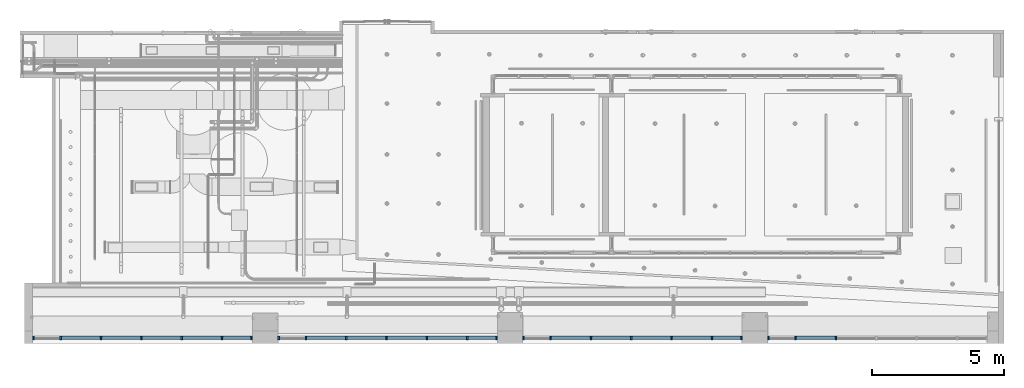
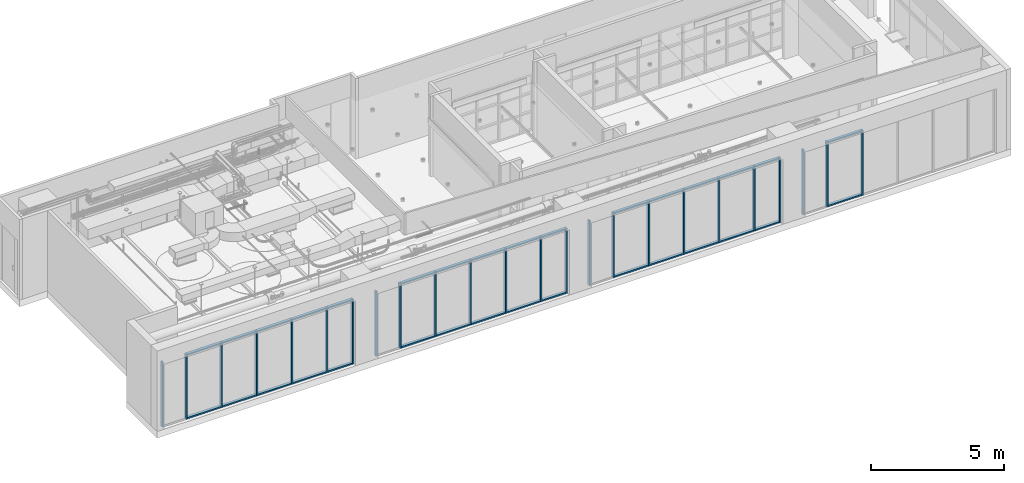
# One storey, part 2 of 108: 56 members, 4 elements without a shape of their own.
"""IFC4 building model written with IfcOpenShell, lengths in feet."""

from ifc_helpers import new_model, entity, si_unit, converted_unit, derived_unit, direction, frame, origin, origin_2d_with_axis, place, context, subcontext, project, spatial, rectangle, extrude, source, transform, mapped, material, material_profile, profile_set, profile_usage, type_object, type_shapes, element, aggregate, save


model = new_model("IFC4")

# Units and contexts
model_context = context("Model", 3, precision=0.0001, world=origin(), true_north=direction((6.12303176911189e-17, 1.0)))
body_context = subcontext(model_context, "Body", "Model", "MODEL_VIEW")
ifc_project = project(units=[converted_unit("LENGTHUNIT", "FOOT", entity("IfcRatioMeasure", 0.3048), si_unit("LENGTHUNIT", "METRE"), dimensions=[1, 0, 0, 0, 0, 0, 0]), converted_unit("AREAUNIT", "SQUARE FOOT", entity("IfcRatioMeasure", 0.09290304), si_unit("AREAUNIT", "SQUARE_METRE"), dimensions=[2, 0, 0, 0, 0, 0, 0]), converted_unit("VOLUMEUNIT", "CUBIC FOOT", entity("IfcRatioMeasure", 0.028316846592), si_unit("VOLUMEUNIT", "CUBIC_METRE"), dimensions=[3, 0, 0, 0, 0, 0, 0]), converted_unit("PLANEANGLEUNIT", "DEGREE", entity("IfcRatioMeasure", 0.0174532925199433), si_unit("PLANEANGLEUNIT", "RADIAN"), dimensions=[0, 0, 0, 0, 0, 0, 0]), si_unit("MASSUNIT", "GRAM", prefix="KILO"), derived_unit("MASSDENSITYUNIT", [(si_unit("MASSUNIT", "GRAM", prefix="KILO"), 1), (si_unit("LENGTHUNIT", "METRE"), -3)]), si_unit("TIMEUNIT", "SECOND"), si_unit("FREQUENCYUNIT", "HERTZ"), si_unit("THERMODYNAMICTEMPERATUREUNIT", "DEGREE_CELSIUS"), derived_unit("THERMALTRANSMITTANCEUNIT", [(si_unit("MASSUNIT", "GRAM", prefix="KILO"), 1), (si_unit("THERMODYNAMICTEMPERATUREUNIT", "KELVIN"), -1), (si_unit("TIMEUNIT", "SECOND"), -3)]), derived_unit("VOLUMETRICFLOWRATEUNIT", [(si_unit("LENGTHUNIT", "METRE"), 3), (si_unit("TIMEUNIT", "SECOND"), -1)]), si_unit("ELECTRICCURRENTUNIT", "AMPERE"), si_unit("ELECTRICVOLTAGEUNIT", "VOLT"), si_unit("POWERUNIT", "WATT"), si_unit("FORCEUNIT", "NEWTON"), si_unit("ILLUMINANCEUNIT", "LUX"), si_unit("LUMINOUSFLUXUNIT", "LUMEN"), si_unit("LUMINOUSINTENSITYUNIT", "CANDELA"), derived_unit("USERDEFINED", [(si_unit("MASSUNIT", "GRAM", prefix="KILO"), -1), (si_unit("LENGTHUNIT", "METRE"), -2), (si_unit("TIMEUNIT", "SECOND"), 3), (si_unit("LUMINOUSFLUXUNIT", "LUMEN"), 1)]), derived_unit("LINEARVELOCITYUNIT", [(si_unit("LENGTHUNIT", "METRE"), 1), (si_unit("TIMEUNIT", "SECOND"), -1)]), si_unit("PRESSUREUNIT", "PASCAL"), derived_unit("USERDEFINED", [(si_unit("LENGTHUNIT", "METRE"), -2), (si_unit("MASSUNIT", "GRAM", prefix="KILO"), 1), (si_unit("TIMEUNIT", "SECOND"), -2)])], contexts=[model_context])

# Site, building, storey
site_placement = place(None, origin())
site = spatial("IfcSite", under=ifc_project, at=site_placement, Name="Default", CompositionType="ELEMENT")
building_placement = place(site_placement, origin())
building = spatial("IfcBuilding", under=site, at=building_placement, CompositionType="ELEMENT")
storey_placement = place(building_placement, frame((0.0, 0.0, 168.0)))
storey = spatial("IfcBuildingStorey", under=building, at=storey_placement, Name="Level 15", CompositionType="ELEMENT", Elevation=168.0)

# Curtain wall, member
curtain_wall_type = type_object("IfcCurtainWallType", Name="Curtain Wall:Storefront", PredefinedType="NOTDEFINED")
curtain_wall_1_placement = place(storey_placement, frame((0.0, 0.0, -168.0)))
curtain_wall_1 = element("IfcCurtainWall", 1, at=curtain_wall_1_placement, inside=storey, type_object=curtain_wall_type, Name="Curtain Wall:Storefront", ObjectType="Curtain Wall:Storefront", PredefinedType="NOTDEFINED")
ifc_material = material(Name="Aluminum", Category="Metal")
ifc_material_profile = material_profile(ifc_material, rectangle(XDim=0.416666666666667, YDim=0.208333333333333, at=origin_2d_with_axis()), Name="2.5\" x 5\" rectangular")
ifc_profile_set = profile_set([ifc_material_profile], Name="2.5\" x 5\" rectangular")
ifc_profile_usage_1 = profile_usage(ifc_profile_set)
member_type_1 = type_object("IfcMemberType", Name="2.5\" x 5\" rectangular", PredefinedType="MEMBER", material=ifc_profile_set)
shared_shape_1 = source(origin(), body_context, "Body", "SweptSolid", [
    extrude(rectangle(XDim=0.416666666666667, YDim=0.208333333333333, at=origin_2d_with_axis()), frame((-0.104166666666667, 0.0, -3.4375), z_axis=(0.0, 0.0, 1.0), x_axis=(0.0, -1.0, 0.0)), (0.0, 0.0, 1.0), 3.4375),
])
type_shapes(member_type_1, [shared_shape_1])
member_1_placement = place(storey_placement, frame((29.2229073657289, -22.4324357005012, 0.0), z_axis=(1.0, 0.0, 0.0), x_axis=(0.0, 0.0, -1.0)))
member_1 = element("IfcMember", 2, at=member_1_placement, type_object=member_type_1, material=ifc_profile_usage_1, Name="Rectangular Mullion:2.5\" x 5\" rectangular", ObjectType="Rectangular Mullion:2.5\" x 5\" rectangular", PredefinedType="MULLION", context=body_context, shape_type="MappedRepresentation", body=[
    mapped(shared_shape_1, transform((0.0, 0.0, 0.0), scale=1.0)),
])

curtain_wall_2_placement = place(storey_placement, frame((0.0, 0.0, -168.0)))
curtain_wall_2 = element("IfcCurtainWall", 3, at=curtain_wall_2_placement, inside=storey, type_object=curtain_wall_type, Name="Curtain Wall:Storefront", ObjectType="Curtain Wall:Storefront", PredefinedType="NOTDEFINED")
ifc_profile_usage_2 = profile_usage(ifc_profile_set)
member_2_placement = place(storey_placement, frame((-1.11042596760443, -22.4324357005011, 0.0), z_axis=(1.0, 0.0, 0.0), x_axis=(0.0, 0.0, -1.0)))
member_2 = element("IfcMember", 4, at=member_2_placement, type_object=member_type_1, material=ifc_profile_usage_2, Name="Rectangular Mullion:2.5\" x 5\" rectangular", ObjectType="Rectangular Mullion:2.5\" x 5\" rectangular", PredefinedType="MULLION", context=body_context, shape_type="MappedRepresentation", body=[
    mapped(shared_shape_1, transform((0.0, 0.0, 0.0), scale=1.0)),
])

curtain_wall_3_placement = place(storey_placement, frame((0.0, 0.0, -168.0)))
curtain_wall_3 = element("IfcCurtainWall", 5, at=curtain_wall_3_placement, inside=storey, type_object=curtain_wall_type, Name="Curtain Wall:Storefront", ObjectType="Curtain Wall:Storefront", PredefinedType="NOTDEFINED")
ifc_profile_usage_3 = profile_usage(ifc_profile_set)
member_3_placement = place(storey_placement, frame((-31.5048400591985, -22.432435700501, 0.0), z_axis=(1.0, 0.0, 0.0), x_axis=(0.0, 0.0, -1.0)))
member_3 = element("IfcMember", 6, at=member_3_placement, type_object=member_type_1, material=ifc_profile_usage_3, Name="Rectangular Mullion:2.5\" x 5\" rectangular", ObjectType="Rectangular Mullion:2.5\" x 5\" rectangular", PredefinedType="MULLION", context=body_context, shape_type="MappedRepresentation", body=[
    mapped(shared_shape_1, transform((0.0, 0.0, 0.0), scale=1.0)),
])

curtain_wall_4_placement = place(storey_placement, frame((0.0, 0.0, -168.0)))
curtain_wall_4 = element("IfcCurtainWall", 7, at=curtain_wall_4_placement, inside=storey, type_object=curtain_wall_type, Name="Curtain Wall:Storefront", ObjectType="Curtain Wall:Storefront", PredefinedType="NOTDEFINED")
ifc_profile_usage_4 = profile_usage(ifc_profile_set)
member_type_2 = type_object("IfcMemberType", Name="2.5\" x 5\" rectangular", PredefinedType="MEMBER", material=ifc_profile_set)
shared_shape_2 = source(origin(), body_context, "Body", "SweptSolid", [
    extrude(rectangle(XDim=0.416666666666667, YDim=0.208333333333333, at=origin_2d_with_axis()), frame((-0.104166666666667, 0.0, -9.74877040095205), z_axis=(0.0, 0.0, 1.0), x_axis=(0.0, -1.0, 0.0)), (0.0, 0.0, 1.0), 9.74877040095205),
])
type_shapes(member_type_2, [shared_shape_2])
member_4_placement = place(storey_placement, frame((32.571870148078, -22.4324357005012, 0.0), z_axis=(0.0, 0.0, -1.0), x_axis=(-1.0, 0.0, 0.0)))
member_4 = element("IfcMember", 8, at=member_4_placement, type_object=member_type_2, material=ifc_profile_usage_4, Name="Rectangular Mullion:2.5\" x 5\" rectangular", ObjectType="Rectangular Mullion:2.5\" x 5\" rectangular", PredefinedType="MULLION", context=body_context, shape_type="MappedRepresentation", body=[
    mapped(shared_shape_2, transform((0.0, 0.0, 0.0), scale=1.0)),
])

# Member
ifc_profile_usage_5 = profile_usage(ifc_profile_set)
member_5_placement = place(storey_placement, frame((2.20213174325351, -22.4324357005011, 0.0), z_axis=(0.0, 0.0, -1.0), x_axis=(-1.0, 0.0, 0.0)))
member_5 = element("IfcMember", 9, at=member_5_placement, type_object=member_type_2, material=ifc_profile_usage_5, Name="Rectangular Mullion:2.5\" x 5\" rectangular", ObjectType="Rectangular Mullion:2.5\" x 5\" rectangular", PredefinedType="MULLION", context=body_context, shape_type="MappedRepresentation", body=[
    mapped(shared_shape_2, transform((0.0, 0.0, 0.0), scale=1.0)),
])

ifc_profile_usage_6 = profile_usage(ifc_profile_set)
member_6_placement = place(storey_placement, frame((-28.1312015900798, -22.432435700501, 0.0), z_axis=(0.0, 0.0, -1.0), x_axis=(-1.0, 0.0, 0.0)))
member_6 = element("IfcMember", 10, at=member_6_placement, type_object=member_type_2, material=ifc_profile_usage_6, Name="Rectangular Mullion:2.5\" x 5\" rectangular", ObjectType="Rectangular Mullion:2.5\" x 5\" rectangular", PredefinedType="MULLION", context=body_context, shape_type="MappedRepresentation", body=[
    mapped(shared_shape_2, transform((0.0, 0.0, 0.0), scale=1.0)),
])

ifc_profile_usage_7 = profile_usage(ifc_profile_set)
member_7_placement = place(storey_placement, frame((-58.5256156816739, -22.4324357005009, 0.0), z_axis=(0.0, 0.0, -1.0), x_axis=(-1.0, 0.0, 0.0)))
member_7 = element("IfcMember", 11, at=member_7_placement, type_object=member_type_2, material=ifc_profile_usage_7, Name="Rectangular Mullion:2.5\" x 5\" rectangular", ObjectType="Rectangular Mullion:2.5\" x 5\" rectangular", PredefinedType="MULLION", context=body_context, shape_type="MappedRepresentation", body=[
    mapped(shared_shape_2, transform((0.0, 0.0, 0.0), scale=1.0)),
])

ifc_profile_usage_8 = profile_usage(ifc_profile_set)
member_type_3 = type_object("IfcMemberType", Name="2.5\" x 5\" rectangular", PredefinedType="MEMBER", material=ifc_profile_set)
shared_shape_3 = source(origin(), body_context, "Body", "SweptSolid", [
    extrude(rectangle(XDim=0.416666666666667, YDim=0.208333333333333, at=origin_2d_with_axis()), frame((-0.104166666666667, 0.0, -9.74877040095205), z_axis=(0.0, 0.0, 1.0), x_axis=(0.0, -1.0, 0.0)), (0.0, 0.0, 1.0), 9.74877040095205),
])
type_shapes(member_type_3, [shared_shape_3])
member_8_placement = place(storey_placement, frame((29.4312406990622, -22.4324357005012, 9.74877040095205)))
member_8 = element("IfcMember", 12, at=member_8_placement, type_object=member_type_3, material=ifc_profile_usage_8, Name="Rectangular Mullion:2.5\" x 5\" rectangular", ObjectType="Rectangular Mullion:2.5\" x 5\" rectangular", PredefinedType="MULLION", context=body_context, shape_type="MappedRepresentation", body=[
    mapped(shared_shape_3, transform((0.0, 0.0, 0.0), scale=1.0)),
])

ifc_profile_usage_9 = profile_usage(ifc_profile_set)
member_9_placement = place(storey_placement, frame((-0.902092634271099, -22.4324357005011, 9.74877040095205)))
member_9 = element("IfcMember", 13, at=member_9_placement, type_object=member_type_3, material=ifc_profile_usage_9, Name="Rectangular Mullion:2.5\" x 5\" rectangular", ObjectType="Rectangular Mullion:2.5\" x 5\" rectangular", PredefinedType="MULLION", context=body_context, shape_type="MappedRepresentation", body=[
    mapped(shared_shape_3, transform((0.0, 0.0, 0.0), scale=1.0)),
])

ifc_profile_usage_10 = profile_usage(ifc_profile_set)
member_10_placement = place(storey_placement, frame((-31.2965067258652, -22.432435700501, 9.74877040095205)))
member_10 = element("IfcMember", 14, at=member_10_placement, type_object=member_type_3, material=ifc_profile_usage_10, Name="Rectangular Mullion:2.5\" x 5\" rectangular", ObjectType="Rectangular Mullion:2.5\" x 5\" rectangular", PredefinedType="MULLION", context=body_context, shape_type="MappedRepresentation", body=[
    mapped(shared_shape_3, transform((0.0, 0.0, 0.0), scale=1.0)),
])

ifc_profile_usage_11 = profile_usage(ifc_profile_set)
member_type_4 = type_object("IfcMemberType", Name="2.5\" x 5\" rectangular", PredefinedType="MEMBER", material=ifc_profile_set)
shared_shape_4 = source(origin(), body_context, "Body", "SweptSolid", [
    extrude(rectangle(XDim=0.416666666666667, YDim=0.208333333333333, at=origin_2d_with_axis()), frame((-0.104166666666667, 0.0, -4.79166666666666), z_axis=(0.0, 0.0, 1.0), x_axis=(0.0, -1.0, 0.0)), (0.0, 0.0, 1.0), 4.79166666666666),
])
type_shapes(member_type_4, [shared_shape_4])
member_11_placement = place(storey_placement, frame((36.1551457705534, -22.4324357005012, 9.74877040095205), z_axis=(-1.0, 0.0, 0.0), x_axis=(0.0, 0.0, 1.0)))
member_11 = element("IfcMember", 15, at=member_11_placement, type_object=member_type_4, material=ifc_profile_usage_11, Name="Rectangular Mullion:2.5\" x 5\" rectangular", ObjectType="Rectangular Mullion:2.5\" x 5\" rectangular", PredefinedType="MULLION", context=body_context, shape_type="MappedRepresentation", body=[
    mapped(shared_shape_4, transform((0.0, 0.0, 0.0), scale=1.0)),
])

ifc_profile_usage_12 = profile_usage(ifc_profile_set)
member_12_placement = place(storey_placement, frame((10.7854073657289, -22.4324357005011, 9.74877040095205), z_axis=(-1.0, 0.0, 0.0), x_axis=(0.0, 0.0, 1.0)))
member_12 = element("IfcMember", 16, at=member_12_placement, type_object=member_type_4, material=ifc_profile_usage_12, Name="Rectangular Mullion:2.5\" x 5\" rectangular", ObjectType="Rectangular Mullion:2.5\" x 5\" rectangular", PredefinedType="MULLION", context=body_context, shape_type="MappedRepresentation", body=[
    mapped(shared_shape_4, transform((0.0, 0.0, 0.0), scale=1.0)),
])

ifc_profile_usage_13 = profile_usage(ifc_profile_set)
member_13_placement = place(storey_placement, frame((5.7854073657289, -22.4324357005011, 9.74877040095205), z_axis=(-1.0, 0.0, 0.0), x_axis=(0.0, 0.0, 1.0)))
member_13 = element("IfcMember", 17, at=member_13_placement, type_object=member_type_4, material=ifc_profile_usage_13, Name="Rectangular Mullion:2.5\" x 5\" rectangular", ObjectType="Rectangular Mullion:2.5\" x 5\" rectangular", PredefinedType="MULLION", context=body_context, shape_type="MappedRepresentation", body=[
    mapped(shared_shape_4, transform((0.0, 0.0, 0.0), scale=1.0)),
])

ifc_profile_usage_14 = profile_usage(ifc_profile_set)
member_14_placement = place(storey_placement, frame((15.7854073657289, -22.4324357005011, 9.74877040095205), z_axis=(-1.0, 0.0, 0.0), x_axis=(0.0, 0.0, 1.0)))
member_14 = element("IfcMember", 18, at=member_14_placement, type_object=member_type_4, material=ifc_profile_usage_14, Name="Rectangular Mullion:2.5\" x 5\" rectangular", ObjectType="Rectangular Mullion:2.5\" x 5\" rectangular", PredefinedType="MULLION", context=body_context, shape_type="MappedRepresentation", body=[
    mapped(shared_shape_4, transform((0.0, 0.0, 0.0), scale=1.0)),
])

ifc_profile_usage_15 = profile_usage(ifc_profile_set)
member_15_placement = place(storey_placement, frame((20.7854073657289, -22.4324357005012, 9.74877040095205), z_axis=(-1.0, 0.0, 0.0), x_axis=(0.0, 0.0, 1.0)))
member_15 = element("IfcMember", 19, at=member_15_placement, type_object=member_type_4, material=ifc_profile_usage_15, Name="Rectangular Mullion:2.5\" x 5\" rectangular", ObjectType="Rectangular Mullion:2.5\" x 5\" rectangular", PredefinedType="MULLION", context=body_context, shape_type="MappedRepresentation", body=[
    mapped(shared_shape_4, transform((0.0, 0.0, 0.0), scale=1.0)),
])

ifc_profile_usage_16 = profile_usage(ifc_profile_set)
member_16_placement = place(storey_placement, frame((-19.5479259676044, -22.432435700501, 9.74877040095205), z_axis=(-1.0, 0.0, 0.0), x_axis=(0.0, 0.0, 1.0)))
member_16 = element("IfcMember", 20, at=member_16_placement, type_object=member_type_4, material=ifc_profile_usage_16, Name="Rectangular Mullion:2.5\" x 5\" rectangular", ObjectType="Rectangular Mullion:2.5\" x 5\" rectangular", PredefinedType="MULLION", context=body_context, shape_type="MappedRepresentation", body=[
    mapped(shared_shape_4, transform((0.0, 0.0, 0.0), scale=1.0)),
])

ifc_profile_usage_17 = profile_usage(ifc_profile_set)
member_17_placement = place(storey_placement, frame((-24.5479259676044, -22.432435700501, 9.74877040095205), z_axis=(-1.0, 0.0, 0.0), x_axis=(0.0, 0.0, 1.0)))
member_17 = element("IfcMember", 21, at=member_17_placement, type_object=member_type_4, material=ifc_profile_usage_17, Name="Rectangular Mullion:2.5\" x 5\" rectangular", ObjectType="Rectangular Mullion:2.5\" x 5\" rectangular", PredefinedType="MULLION", context=body_context, shape_type="MappedRepresentation", body=[
    mapped(shared_shape_4, transform((0.0, 0.0, 0.0), scale=1.0)),
])

ifc_profile_usage_18 = profile_usage(ifc_profile_set)
member_18_placement = place(storey_placement, frame((-14.5479259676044, -22.432435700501, 9.74877040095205), z_axis=(-1.0, 0.0, 0.0), x_axis=(0.0, 0.0, 1.0)))
member_18 = element("IfcMember", 22, at=member_18_placement, type_object=member_type_4, material=ifc_profile_usage_18, Name="Rectangular Mullion:2.5\" x 5\" rectangular", ObjectType="Rectangular Mullion:2.5\" x 5\" rectangular", PredefinedType="MULLION", context=body_context, shape_type="MappedRepresentation", body=[
    mapped(shared_shape_4, transform((0.0, 0.0, 0.0), scale=1.0)),
])

ifc_profile_usage_19 = profile_usage(ifc_profile_set)
member_19_placement = place(storey_placement, frame((-9.54792596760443, -22.4324357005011, 9.74877040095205), z_axis=(-1.0, 0.0, 0.0), x_axis=(0.0, 0.0, 1.0)))
member_19 = element("IfcMember", 23, at=member_19_placement, type_object=member_type_4, material=ifc_profile_usage_19, Name="Rectangular Mullion:2.5\" x 5\" rectangular", ObjectType="Rectangular Mullion:2.5\" x 5\" rectangular", PredefinedType="MULLION", context=body_context, shape_type="MappedRepresentation", body=[
    mapped(shared_shape_4, transform((0.0, 0.0, 0.0), scale=1.0)),
])

ifc_profile_usage_20 = profile_usage(ifc_profile_set)
member_20_placement = place(storey_placement, frame((-49.9423400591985, -22.4324357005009, 9.74877040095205), z_axis=(-1.0, 0.0, 0.0), x_axis=(0.0, 0.0, 1.0)))
member_20 = element("IfcMember", 24, at=member_20_placement, type_object=member_type_4, material=ifc_profile_usage_20, Name="Rectangular Mullion:2.5\" x 5\" rectangular", ObjectType="Rectangular Mullion:2.5\" x 5\" rectangular", PredefinedType="MULLION", context=body_context, shape_type="MappedRepresentation", body=[
    mapped(shared_shape_4, transform((0.0, 0.0, 0.0), scale=1.0)),
])

ifc_profile_usage_21 = profile_usage(ifc_profile_set)
member_21_placement = place(storey_placement, frame((-54.9423400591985, -22.4324357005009, 9.74877040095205), z_axis=(-1.0, 0.0, 0.0), x_axis=(0.0, 0.0, 1.0)))
member_21 = element("IfcMember", 25, at=member_21_placement, type_object=member_type_4, material=ifc_profile_usage_21, Name="Rectangular Mullion:2.5\" x 5\" rectangular", ObjectType="Rectangular Mullion:2.5\" x 5\" rectangular", PredefinedType="MULLION", context=body_context, shape_type="MappedRepresentation", body=[
    mapped(shared_shape_4, transform((0.0, 0.0, 0.0), scale=1.0)),
])

ifc_profile_usage_22 = profile_usage(ifc_profile_set)
member_22_placement = place(storey_placement, frame((-44.9423400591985, -22.432435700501, 9.74877040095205), z_axis=(-1.0, 0.0, 0.0), x_axis=(0.0, 0.0, 1.0)))
member_22 = element("IfcMember", 26, at=member_22_placement, type_object=member_type_4, material=ifc_profile_usage_22, Name="Rectangular Mullion:2.5\" x 5\" rectangular", ObjectType="Rectangular Mullion:2.5\" x 5\" rectangular", PredefinedType="MULLION", context=body_context, shape_type="MappedRepresentation", body=[
    mapped(shared_shape_4, transform((0.0, 0.0, 0.0), scale=1.0)),
])

ifc_profile_usage_23 = profile_usage(ifc_profile_set)
member_23_placement = place(storey_placement, frame((-39.9423400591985, -22.432435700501, 9.74877040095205), z_axis=(-1.0, 0.0, 0.0), x_axis=(0.0, 0.0, 1.0)))
member_23 = element("IfcMember", 27, at=member_23_placement, type_object=member_type_4, material=ifc_profile_usage_23, Name="Rectangular Mullion:2.5\" x 5\" rectangular", ObjectType="Rectangular Mullion:2.5\" x 5\" rectangular", PredefinedType="MULLION", context=body_context, shape_type="MappedRepresentation", body=[
    mapped(shared_shape_4, transform((0.0, 0.0, 0.0), scale=1.0)),
])

ifc_profile_usage_24 = profile_usage(ifc_profile_set)
member_type_5 = type_object("IfcMemberType", Name="2.5\" x 5\" rectangular", PredefinedType="MEMBER", material=ifc_profile_set)
shared_shape_5 = source(origin(), body_context, "Body", "SweptSolid", [
    extrude(rectangle(XDim=0.416666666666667, YDim=0.208333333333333, at=origin_2d_with_axis()), frame((-0.104166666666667, 0.0, -4.79166666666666), z_axis=(0.0, 0.0, 1.0), x_axis=(0.0, -1.0, 0.0)), (0.0, 0.0, 1.0), 4.79166666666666),
])
type_shapes(member_type_5, [shared_shape_5])
member_24_placement = place(storey_placement, frame((40.94681243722, -22.4324357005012, 0.0), z_axis=(1.0, 0.0, 0.0), x_axis=(0.0, 0.0, -1.0)))
member_24 = element("IfcMember", 28, at=member_24_placement, type_object=member_type_5, material=ifc_profile_usage_24, Name="Rectangular Mullion:2.5\" x 5\" rectangular", ObjectType="Rectangular Mullion:2.5\" x 5\" rectangular", PredefinedType="MULLION", context=body_context, shape_type="MappedRepresentation", body=[
    mapped(shared_shape_5, transform((0.0, 0.0, 0.0), scale=1.0)),
])

ifc_profile_usage_25 = profile_usage(ifc_profile_set)
member_25_placement = place(storey_placement, frame((10.5770740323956, -22.4324357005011, 0.0), z_axis=(1.0, 0.0, 0.0), x_axis=(0.0, 0.0, -1.0)))
member_25 = element("IfcMember", 29, at=member_25_placement, type_object=member_type_5, material=ifc_profile_usage_25, Name="Rectangular Mullion:2.5\" x 5\" rectangular", ObjectType="Rectangular Mullion:2.5\" x 5\" rectangular", PredefinedType="MULLION", context=body_context, shape_type="MappedRepresentation", body=[
    mapped(shared_shape_5, transform((0.0, 0.0, 0.0), scale=1.0)),
])

ifc_profile_usage_26 = profile_usage(ifc_profile_set)
member_26_placement = place(storey_placement, frame((15.5770740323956, -22.4324357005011, 0.0), z_axis=(1.0, 0.0, 0.0), x_axis=(0.0, 0.0, -1.0)))
member_26 = element("IfcMember", 30, at=member_26_placement, type_object=member_type_5, material=ifc_profile_usage_26, Name="Rectangular Mullion:2.5\" x 5\" rectangular", ObjectType="Rectangular Mullion:2.5\" x 5\" rectangular", PredefinedType="MULLION", context=body_context, shape_type="MappedRepresentation", body=[
    mapped(shared_shape_5, transform((0.0, 0.0, 0.0), scale=1.0)),
])

ifc_profile_usage_27 = profile_usage(ifc_profile_set)
member_27_placement = place(storey_placement, frame((20.5770740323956, -22.4324357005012, 0.0), z_axis=(1.0, 0.0, 0.0), x_axis=(0.0, 0.0, -1.0)))
member_27 = element("IfcMember", 31, at=member_27_placement, type_object=member_type_5, material=ifc_profile_usage_27, Name="Rectangular Mullion:2.5\" x 5\" rectangular", ObjectType="Rectangular Mullion:2.5\" x 5\" rectangular", PredefinedType="MULLION", context=body_context, shape_type="MappedRepresentation", body=[
    mapped(shared_shape_5, transform((0.0, 0.0, 0.0), scale=1.0)),
])

ifc_profile_usage_28 = profile_usage(ifc_profile_set)
member_28_placement = place(storey_placement, frame((25.5770740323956, -22.4324357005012, 0.0), z_axis=(1.0, 0.0, 0.0), x_axis=(0.0, 0.0, -1.0)))
member_28 = element("IfcMember", 32, at=member_28_placement, type_object=member_type_5, material=ifc_profile_usage_28, Name="Rectangular Mullion:2.5\" x 5\" rectangular", ObjectType="Rectangular Mullion:2.5\" x 5\" rectangular", PredefinedType="MULLION", context=body_context, shape_type="MappedRepresentation", body=[
    mapped(shared_shape_5, transform((0.0, 0.0, 0.0), scale=1.0)),
])

ifc_profile_usage_29 = profile_usage(ifc_profile_set)
member_29_placement = place(storey_placement, frame((-19.7562593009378, -22.432435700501, 0.0), z_axis=(1.0, 0.0, 0.0), x_axis=(0.0, 0.0, -1.0)))
member_29 = element("IfcMember", 33, at=member_29_placement, type_object=member_type_5, material=ifc_profile_usage_29, Name="Rectangular Mullion:2.5\" x 5\" rectangular", ObjectType="Rectangular Mullion:2.5\" x 5\" rectangular", PredefinedType="MULLION", context=body_context, shape_type="MappedRepresentation", body=[
    mapped(shared_shape_5, transform((0.0, 0.0, 0.0), scale=1.0)),
])

ifc_profile_usage_30 = profile_usage(ifc_profile_set)
member_30_placement = place(storey_placement, frame((-14.7562593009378, -22.432435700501, 0.0), z_axis=(1.0, 0.0, 0.0), x_axis=(0.0, 0.0, -1.0)))
member_30 = element("IfcMember", 34, at=member_30_placement, type_object=member_type_5, material=ifc_profile_usage_30, Name="Rectangular Mullion:2.5\" x 5\" rectangular", ObjectType="Rectangular Mullion:2.5\" x 5\" rectangular", PredefinedType="MULLION", context=body_context, shape_type="MappedRepresentation", body=[
    mapped(shared_shape_5, transform((0.0, 0.0, 0.0), scale=1.0)),
])

ifc_profile_usage_31 = profile_usage(ifc_profile_set)
member_31_placement = place(storey_placement, frame((-9.75625930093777, -22.4324357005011, 0.0), z_axis=(1.0, 0.0, 0.0), x_axis=(0.0, 0.0, -1.0)))
member_31 = element("IfcMember", 35, at=member_31_placement, type_object=member_type_5, material=ifc_profile_usage_31, Name="Rectangular Mullion:2.5\" x 5\" rectangular", ObjectType="Rectangular Mullion:2.5\" x 5\" rectangular", PredefinedType="MULLION", context=body_context, shape_type="MappedRepresentation", body=[
    mapped(shared_shape_5, transform((0.0, 0.0, 0.0), scale=1.0)),
])

ifc_profile_usage_32 = profile_usage(ifc_profile_set)
member_32_placement = place(storey_placement, frame((-4.75625930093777, -22.4324357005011, 0.0), z_axis=(1.0, 0.0, 0.0), x_axis=(0.0, 0.0, -1.0)))
member_32 = element("IfcMember", 36, at=member_32_placement, type_object=member_type_5, material=ifc_profile_usage_32, Name="Rectangular Mullion:2.5\" x 5\" rectangular", ObjectType="Rectangular Mullion:2.5\" x 5\" rectangular", PredefinedType="MULLION", context=body_context, shape_type="MappedRepresentation", body=[
    mapped(shared_shape_5, transform((0.0, 0.0, 0.0), scale=1.0)),
])

ifc_profile_usage_33 = profile_usage(ifc_profile_set)
member_33_placement = place(storey_placement, frame((-50.1506733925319, -22.4324357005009, 0.0), z_axis=(1.0, 0.0, 0.0), x_axis=(0.0, 0.0, -1.0)))
member_33 = element("IfcMember", 37, at=member_33_placement, type_object=member_type_5, material=ifc_profile_usage_33, Name="Rectangular Mullion:2.5\" x 5\" rectangular", ObjectType="Rectangular Mullion:2.5\" x 5\" rectangular", PredefinedType="MULLION", context=body_context, shape_type="MappedRepresentation", body=[
    mapped(shared_shape_5, transform((0.0, 0.0, 0.0), scale=1.0)),
])

ifc_profile_usage_34 = profile_usage(ifc_profile_set)
member_34_placement = place(storey_placement, frame((-45.1506733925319, -22.432435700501, 0.0), z_axis=(1.0, 0.0, 0.0), x_axis=(0.0, 0.0, -1.0)))
member_34 = element("IfcMember", 38, at=member_34_placement, type_object=member_type_5, material=ifc_profile_usage_34, Name="Rectangular Mullion:2.5\" x 5\" rectangular", ObjectType="Rectangular Mullion:2.5\" x 5\" rectangular", PredefinedType="MULLION", context=body_context, shape_type="MappedRepresentation", body=[
    mapped(shared_shape_5, transform((0.0, 0.0, 0.0), scale=1.0)),
])

ifc_profile_usage_35 = profile_usage(ifc_profile_set)
member_35_placement = place(storey_placement, frame((-40.1506733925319, -22.432435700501, 0.0), z_axis=(1.0, 0.0, 0.0), x_axis=(0.0, 0.0, -1.0)))
member_35 = element("IfcMember", 39, at=member_35_placement, type_object=member_type_5, material=ifc_profile_usage_35, Name="Rectangular Mullion:2.5\" x 5\" rectangular", ObjectType="Rectangular Mullion:2.5\" x 5\" rectangular", PredefinedType="MULLION", context=body_context, shape_type="MappedRepresentation", body=[
    mapped(shared_shape_5, transform((0.0, 0.0, 0.0), scale=1.0)),
])

ifc_profile_usage_36 = profile_usage(ifc_profile_set)
member_36_placement = place(storey_placement, frame((-35.1506733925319, -22.432435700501, 0.0), z_axis=(1.0, 0.0, 0.0), x_axis=(0.0, 0.0, -1.0)))
member_36 = element("IfcMember", 40, at=member_36_placement, type_object=member_type_5, material=ifc_profile_usage_36, Name="Rectangular Mullion:2.5\" x 5\" rectangular", ObjectType="Rectangular Mullion:2.5\" x 5\" rectangular", PredefinedType="MULLION", context=body_context, shape_type="MappedRepresentation", body=[
    mapped(shared_shape_5, transform((0.0, 0.0, 0.0), scale=1.0)),
])

ifc_profile_usage_37 = profile_usage(ifc_profile_set)
member_type_6 = type_object("IfcMemberType", Name="2.5\" x 5\" rectangular", PredefinedType="MEMBER", material=ifc_profile_set)
shared_shape_6 = source(origin(), body_context, "Body", "SweptSolid", [
    extrude(rectangle(XDim=0.416666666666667, YDim=0.208333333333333, at=origin_2d_with_axis()), frame((0.0, 0.0, -9.74877040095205), z_axis=(0.0, 0.0, 1.0), x_axis=(0.0, -1.0, 0.0)), (0.0, 0.0, 1.0), 9.74877040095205),
])
type_shapes(member_type_6, [shared_shape_6])
member_37_placement = place(storey_placement, frame((41.0509791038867, -22.4324357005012, 0.0), z_axis=(0.0, 0.0, -1.0), x_axis=(-1.0, 0.0, 0.0)))
member_37 = element("IfcMember", 41, at=member_37_placement, type_object=member_type_6, material=ifc_profile_usage_37, Name="Rectangular Mullion:2.5\" x 5\" rectangular", ObjectType="Rectangular Mullion:2.5\" x 5\" rectangular", PredefinedType="MULLION", context=body_context, shape_type="MappedRepresentation", body=[
    mapped(shared_shape_6, transform((0.0, 0.0, 0.0), scale=1.0)),
])

ifc_profile_usage_38 = profile_usage(ifc_profile_set)
member_38_placement = place(storey_placement, frame((36.0509791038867, -22.4324357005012, 0.0), z_axis=(0.0, 0.0, -1.0), x_axis=(-1.0, 0.0, 0.0)))
member_38 = element("IfcMember", 42, at=member_38_placement, type_object=member_type_6, material=ifc_profile_usage_38, Name="Rectangular Mullion:2.5\" x 5\" rectangular", ObjectType="Rectangular Mullion:2.5\" x 5\" rectangular", PredefinedType="MULLION", context=body_context, shape_type="MappedRepresentation", body=[
    mapped(shared_shape_6, transform((0.0, 0.0, 0.0), scale=1.0)),
])

aggregate(curtain_wall_4, [member_4, member_24, member_37, member_11, member_38])

ifc_profile_usage_39 = profile_usage(ifc_profile_set)
member_39_placement = place(storey_placement, frame((10.6812406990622, -22.4324357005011, 0.0), z_axis=(0.0, 0.0, -1.0), x_axis=(-1.0, 0.0, 0.0)))
member_39 = element("IfcMember", 43, at=member_39_placement, type_object=member_type_6, material=ifc_profile_usage_39, Name="Rectangular Mullion:2.5\" x 5\" rectangular", ObjectType="Rectangular Mullion:2.5\" x 5\" rectangular", PredefinedType="MULLION", context=body_context, shape_type="MappedRepresentation", body=[
    mapped(shared_shape_6, transform((0.0, 0.0, 0.0), scale=1.0)),
])

ifc_profile_usage_40 = profile_usage(ifc_profile_set)
member_40_placement = place(storey_placement, frame((5.68124069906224, -22.4324357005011, 0.0), z_axis=(0.0, 0.0, -1.0), x_axis=(-1.0, 0.0, 0.0)))
member_40 = element("IfcMember", 44, at=member_40_placement, type_object=member_type_6, material=ifc_profile_usage_40, Name="Rectangular Mullion:2.5\" x 5\" rectangular", ObjectType="Rectangular Mullion:2.5\" x 5\" rectangular", PredefinedType="MULLION", context=body_context, shape_type="MappedRepresentation", body=[
    mapped(shared_shape_6, transform((0.0, 0.0, 0.0), scale=1.0)),
])

ifc_profile_usage_41 = profile_usage(ifc_profile_set)
member_41_placement = place(storey_placement, frame((15.6812406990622, -22.4324357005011, 0.0), z_axis=(0.0, 0.0, -1.0), x_axis=(-1.0, 0.0, 0.0)))
member_41 = element("IfcMember", 45, at=member_41_placement, type_object=member_type_6, material=ifc_profile_usage_41, Name="Rectangular Mullion:2.5\" x 5\" rectangular", ObjectType="Rectangular Mullion:2.5\" x 5\" rectangular", PredefinedType="MULLION", context=body_context, shape_type="MappedRepresentation", body=[
    mapped(shared_shape_6, transform((0.0, 0.0, 0.0), scale=1.0)),
])

ifc_profile_usage_42 = profile_usage(ifc_profile_set)
member_42_placement = place(storey_placement, frame((20.6812406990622, -22.4324357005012, 0.0), z_axis=(0.0, 0.0, -1.0), x_axis=(-1.0, 0.0, 0.0)))
member_42 = element("IfcMember", 46, at=member_42_placement, type_object=member_type_6, material=ifc_profile_usage_42, Name="Rectangular Mullion:2.5\" x 5\" rectangular", ObjectType="Rectangular Mullion:2.5\" x 5\" rectangular", PredefinedType="MULLION", context=body_context, shape_type="MappedRepresentation", body=[
    mapped(shared_shape_6, transform((0.0, 0.0, 0.0), scale=1.0)),
])

ifc_profile_usage_43 = profile_usage(ifc_profile_set)
member_43_placement = place(storey_placement, frame((25.6812406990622, -22.4324357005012, 0.0), z_axis=(0.0, 0.0, -1.0), x_axis=(-1.0, 0.0, 0.0)))
member_43 = element("IfcMember", 47, at=member_43_placement, type_object=member_type_6, material=ifc_profile_usage_43, Name="Rectangular Mullion:2.5\" x 5\" rectangular", ObjectType="Rectangular Mullion:2.5\" x 5\" rectangular", PredefinedType="MULLION", context=body_context, shape_type="MappedRepresentation", body=[
    mapped(shared_shape_6, transform((0.0, 0.0, 0.0), scale=1.0)),
])

ifc_profile_usage_44 = profile_usage(ifc_profile_set)
member_44_placement = place(storey_placement, frame((-19.6520926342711, -22.432435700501, 0.0), z_axis=(0.0, 0.0, -1.0), x_axis=(-1.0, 0.0, 0.0)))
member_44 = element("IfcMember", 48, at=member_44_placement, type_object=member_type_6, material=ifc_profile_usage_44, Name="Rectangular Mullion:2.5\" x 5\" rectangular", ObjectType="Rectangular Mullion:2.5\" x 5\" rectangular", PredefinedType="MULLION", context=body_context, shape_type="MappedRepresentation", body=[
    mapped(shared_shape_6, transform((0.0, 0.0, 0.0), scale=1.0)),
])

ifc_profile_usage_45 = profile_usage(ifc_profile_set)
member_45_placement = place(storey_placement, frame((-24.6520926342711, -22.432435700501, 0.0), z_axis=(0.0, 0.0, -1.0), x_axis=(-1.0, 0.0, 0.0)))
member_45 = element("IfcMember", 49, at=member_45_placement, type_object=member_type_6, material=ifc_profile_usage_45, Name="Rectangular Mullion:2.5\" x 5\" rectangular", ObjectType="Rectangular Mullion:2.5\" x 5\" rectangular", PredefinedType="MULLION", context=body_context, shape_type="MappedRepresentation", body=[
    mapped(shared_shape_6, transform((0.0, 0.0, 0.0), scale=1.0)),
])

ifc_profile_usage_46 = profile_usage(ifc_profile_set)
member_46_placement = place(storey_placement, frame((-14.6520926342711, -22.432435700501, 0.0), z_axis=(0.0, 0.0, -1.0), x_axis=(-1.0, 0.0, 0.0)))
member_46 = element("IfcMember", 50, at=member_46_placement, type_object=member_type_6, material=ifc_profile_usage_46, Name="Rectangular Mullion:2.5\" x 5\" rectangular", ObjectType="Rectangular Mullion:2.5\" x 5\" rectangular", PredefinedType="MULLION", context=body_context, shape_type="MappedRepresentation", body=[
    mapped(shared_shape_6, transform((0.0, 0.0, 0.0), scale=1.0)),
])

ifc_profile_usage_47 = profile_usage(ifc_profile_set)
member_47_placement = place(storey_placement, frame((-9.6520926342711, -22.4324357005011, 0.0), z_axis=(0.0, 0.0, -1.0), x_axis=(-1.0, 0.0, 0.0)))
member_47 = element("IfcMember", 51, at=member_47_placement, type_object=member_type_6, material=ifc_profile_usage_47, Name="Rectangular Mullion:2.5\" x 5\" rectangular", ObjectType="Rectangular Mullion:2.5\" x 5\" rectangular", PredefinedType="MULLION", context=body_context, shape_type="MappedRepresentation", body=[
    mapped(shared_shape_6, transform((0.0, 0.0, 0.0), scale=1.0)),
])

ifc_profile_usage_48 = profile_usage(ifc_profile_set)
member_48_placement = place(storey_placement, frame((-4.6520926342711, -22.4324357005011, 0.0), z_axis=(0.0, 0.0, -1.0), x_axis=(-1.0, 0.0, 0.0)))
member_48 = element("IfcMember", 52, at=member_48_placement, type_object=member_type_6, material=ifc_profile_usage_48, Name="Rectangular Mullion:2.5\" x 5\" rectangular", ObjectType="Rectangular Mullion:2.5\" x 5\" rectangular", PredefinedType="MULLION", context=body_context, shape_type="MappedRepresentation", body=[
    mapped(shared_shape_6, transform((0.0, 0.0, 0.0), scale=1.0)),
])

ifc_profile_usage_49 = profile_usage(ifc_profile_set)
member_49_placement = place(storey_placement, frame((-50.0465067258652, -22.4324357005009, 0.0), z_axis=(0.0, 0.0, -1.0), x_axis=(-1.0, 0.0, 0.0)))
member_49 = element("IfcMember", 53, at=member_49_placement, type_object=member_type_6, material=ifc_profile_usage_49, Name="Rectangular Mullion:2.5\" x 5\" rectangular", ObjectType="Rectangular Mullion:2.5\" x 5\" rectangular", PredefinedType="MULLION", context=body_context, shape_type="MappedRepresentation", body=[
    mapped(shared_shape_6, transform((0.0, 0.0, 0.0), scale=1.0)),
])

ifc_profile_usage_50 = profile_usage(ifc_profile_set)
member_50_placement = place(storey_placement, frame((-55.0465067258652, -22.4324357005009, 0.0), z_axis=(0.0, 0.0, -1.0), x_axis=(-1.0, 0.0, 0.0)))
member_50 = element("IfcMember", 54, at=member_50_placement, type_object=member_type_6, material=ifc_profile_usage_50, Name="Rectangular Mullion:2.5\" x 5\" rectangular", ObjectType="Rectangular Mullion:2.5\" x 5\" rectangular", PredefinedType="MULLION", context=body_context, shape_type="MappedRepresentation", body=[
    mapped(shared_shape_6, transform((0.0, 0.0, 0.0), scale=1.0)),
])

ifc_profile_usage_51 = profile_usage(ifc_profile_set)
member_51_placement = place(storey_placement, frame((-45.0465067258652, -22.432435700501, 0.0), z_axis=(0.0, 0.0, -1.0), x_axis=(-1.0, 0.0, 0.0)))
member_51 = element("IfcMember", 55, at=member_51_placement, type_object=member_type_6, material=ifc_profile_usage_51, Name="Rectangular Mullion:2.5\" x 5\" rectangular", ObjectType="Rectangular Mullion:2.5\" x 5\" rectangular", PredefinedType="MULLION", context=body_context, shape_type="MappedRepresentation", body=[
    mapped(shared_shape_6, transform((0.0, 0.0, 0.0), scale=1.0)),
])

ifc_profile_usage_52 = profile_usage(ifc_profile_set)
member_52_placement = place(storey_placement, frame((-40.0465067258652, -22.432435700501, 0.0), z_axis=(0.0, 0.0, -1.0), x_axis=(-1.0, 0.0, 0.0)))
member_52 = element("IfcMember", 56, at=member_52_placement, type_object=member_type_6, material=ifc_profile_usage_52, Name="Rectangular Mullion:2.5\" x 5\" rectangular", ObjectType="Rectangular Mullion:2.5\" x 5\" rectangular", PredefinedType="MULLION", context=body_context, shape_type="MappedRepresentation", body=[
    mapped(shared_shape_6, transform((0.0, 0.0, 0.0), scale=1.0)),
])

ifc_profile_usage_53 = profile_usage(ifc_profile_set)
member_53_placement = place(storey_placement, frame((-35.0465067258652, -22.432435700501, 0.0), z_axis=(0.0, 0.0, -1.0), x_axis=(-1.0, 0.0, 0.0)))
member_53 = element("IfcMember", 57, at=member_53_placement, type_object=member_type_6, material=ifc_profile_usage_53, Name="Rectangular Mullion:2.5\" x 5\" rectangular", ObjectType="Rectangular Mullion:2.5\" x 5\" rectangular", PredefinedType="MULLION", context=body_context, shape_type="MappedRepresentation", body=[
    mapped(shared_shape_6, transform((0.0, 0.0, 0.0), scale=1.0)),
])

ifc_profile_usage_54 = profile_usage(ifc_profile_set)
member_type_7 = type_object("IfcMemberType", Name="2.5\" x 5\" rectangular", PredefinedType="MEMBER", material=ifc_profile_set)
shared_shape_7 = source(origin(), body_context, "Body", "SweptSolid", [
    extrude(rectangle(XDim=0.416666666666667, YDim=0.208333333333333, at=origin_2d_with_axis()), frame((-0.104166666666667, 0.0, -3.4375), z_axis=(0.0, 0.0, 1.0), x_axis=(0.0, -1.0, 0.0)), (0.0, 0.0, 1.0), 3.4375),
])
type_shapes(member_type_7, [shared_shape_7])
member_54_placement = place(storey_placement, frame((25.7854073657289, -22.4324357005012, 9.74877040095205), z_axis=(-1.0, 0.0, 0.0), x_axis=(0.0, 0.0, 1.0)))
member_54 = element("IfcMember", 58, at=member_54_placement, type_object=member_type_7, material=ifc_profile_usage_54, Name="Rectangular Mullion:2.5\" x 5\" rectangular", ObjectType="Rectangular Mullion:2.5\" x 5\" rectangular", PredefinedType="MULLION", context=body_context, shape_type="MappedRepresentation", body=[
    mapped(shared_shape_7, transform((0.0, 0.0, 0.0), scale=1.0)),
])

aggregate(curtain_wall_1, [member_1, member_5, member_8, member_12, member_25, member_39, member_13, member_40, member_14, member_26, member_41, member_15, member_27, member_42, member_54, member_28, member_43])

ifc_profile_usage_55 = profile_usage(ifc_profile_set)
member_55_placement = place(storey_placement, frame((-4.54792596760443, -22.4324357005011, 9.74877040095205), z_axis=(-1.0, 0.0, 0.0), x_axis=(0.0, 0.0, 1.0)))
member_55 = element("IfcMember", 59, at=member_55_placement, type_object=member_type_7, material=ifc_profile_usage_55, Name="Rectangular Mullion:2.5\" x 5\" rectangular", ObjectType="Rectangular Mullion:2.5\" x 5\" rectangular", PredefinedType="MULLION", context=body_context, shape_type="MappedRepresentation", body=[
    mapped(shared_shape_7, transform((0.0, 0.0, 0.0), scale=1.0)),
])

aggregate(curtain_wall_2, [member_2, member_6, member_9, member_16, member_29, member_44, member_17, member_45, member_18, member_30, member_46, member_19, member_31, member_47, member_55, member_32, member_48])

ifc_profile_usage_56 = profile_usage(ifc_profile_set)
member_56_placement = place(storey_placement, frame((-34.9423400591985, -22.432435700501, 9.74877040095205), z_axis=(-1.0, 0.0, 0.0), x_axis=(0.0, 0.0, 1.0)))
member_56 = element("IfcMember", 60, at=member_56_placement, type_object=member_type_7, material=ifc_profile_usage_56, Name="Rectangular Mullion:2.5\" x 5\" rectangular", ObjectType="Rectangular Mullion:2.5\" x 5\" rectangular", PredefinedType="MULLION", context=body_context, shape_type="MappedRepresentation", body=[
    mapped(shared_shape_7, transform((0.0, 0.0, 0.0), scale=1.0)),
])

aggregate(curtain_wall_3, [member_3, member_7, member_10, member_20, member_33, member_49, member_21, member_50, member_22, member_34, member_51, member_23, member_35, member_52, member_56, member_36, member_53])

save(model, "model.ifc")
